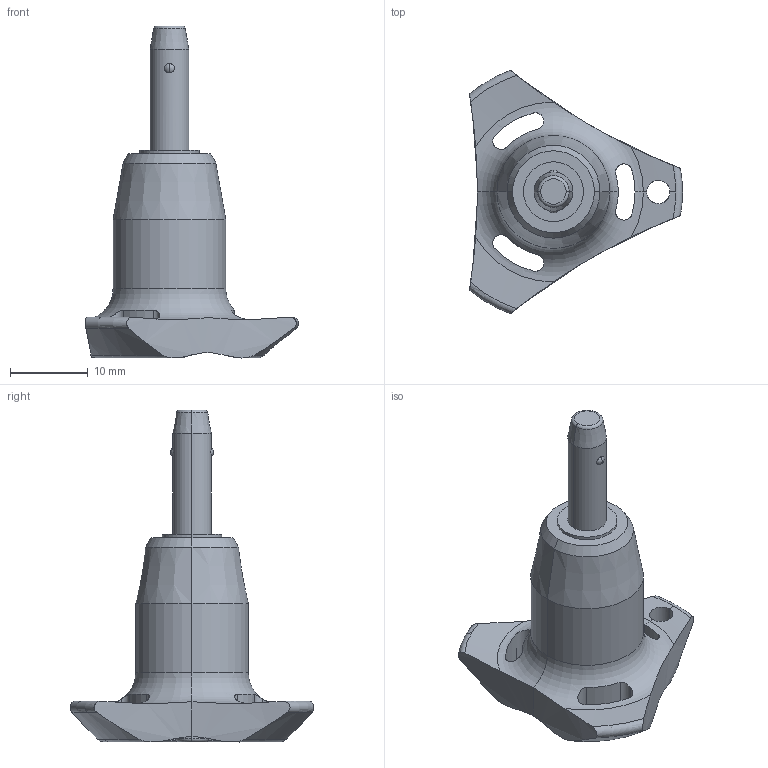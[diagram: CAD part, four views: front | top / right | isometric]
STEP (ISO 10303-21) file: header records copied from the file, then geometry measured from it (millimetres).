
FILE_DESCRIPTION (( 'STEP AP203' ), '1' );
FILE_NAME ('QR1714.M05-010-S.step', '2025-11-12T09:52:19', ( '' ), ( '' ), 'SwSTEP 2.0', 'SolidWorks 2019', '' );
FILE_SCHEMA (( 'CONFIG_CONTROL_DESIGN' ));
Length unit declared in the file: millimetre
Products named in the file (1): QR1714.M05-010-S
Bounding box: 27.4 x 31.31 x 42.7 mm (x, y, z)
Volume: 5064.4 mm3; surface area: 2665.4 mm2
Topology: 1 solids, 1 shells, 66 faces, 181 edges, 115 vertices
Faces by surface type: cylinder 30, cone 14, torus 12, sphere 6, plane 4
Entity records: 2693 total; most frequent: CARTESIAN_POINT 981, ORIENTED_EDGE 362, DIRECTION 332, EDGE_CURVE 181, AXIS2_PLACEMENT_3D 148, VERTEX_POINT 115, CIRCLE 81, EDGE_LOOP 72
